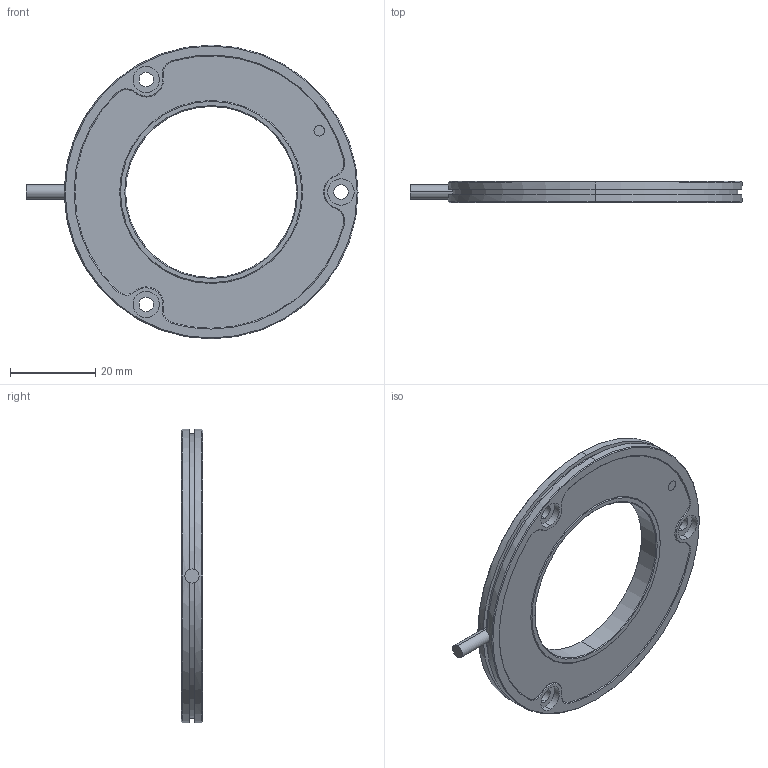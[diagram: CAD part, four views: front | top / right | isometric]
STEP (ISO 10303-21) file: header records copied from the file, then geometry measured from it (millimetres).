
FILE_DESCRIPTION (( 'STEP AP214' ), '1' );
FILE_NAME ('GRS-069-K0x-AL_rev01.STEP', '2023-11-08T08:49:53', ( '' ), ( '' ), 'SwSTEP 2.0', 'SolidWorks 2021', '' );
FILE_SCHEMA (( 'AUTOMOTIVE_DESIGN' ));
Length unit declared in the file: millimetre
Products named in the file (1): GRS-069-K0x-AL_rev01
Bounding box: 78 x 5 x 69 mm (x, y, z)
Volume: 11477.5 mm3; surface area: 12703.4 mm2
Topology: 4 solids, 4 shells, 136 faces, 327 edges, 210 vertices
Faces by surface type: cylinder 84, plane 29, cone 23
Entity records: 5640 total; most frequent: DIRECTION 793, CARTESIAN_POINT 704, ORIENTED_EDGE 654, AXIS2_PLACEMENT_3D 331, EDGE_CURVE 327, VERTEX_POINT 210, CIRCLE 194, EDGE_LOOP 159
